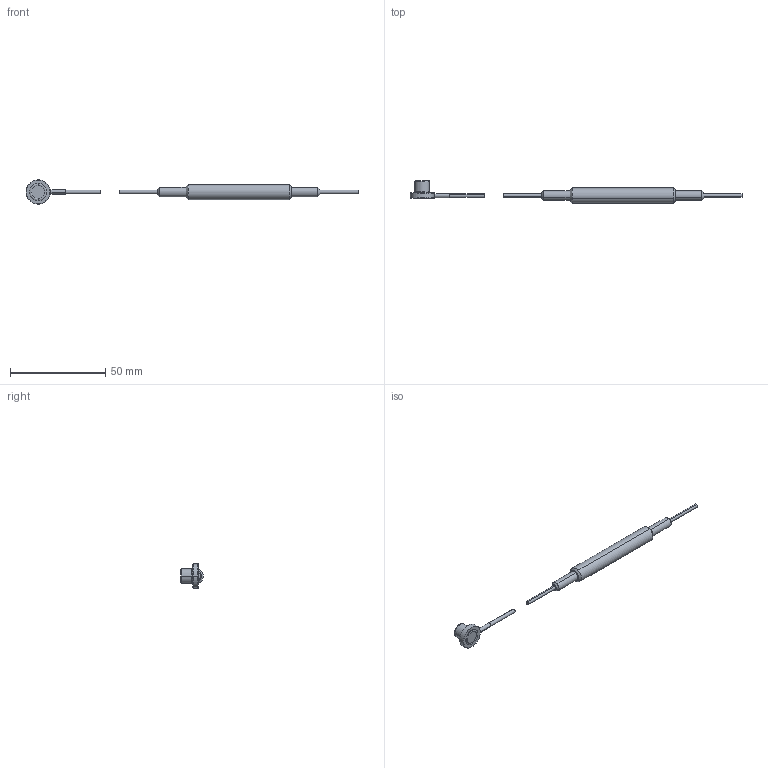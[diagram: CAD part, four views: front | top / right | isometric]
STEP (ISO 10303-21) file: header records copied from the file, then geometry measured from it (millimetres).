
FILE_DESCRIPTION(('STEP AP203'),'1');
FILE_NAME('C:/TPO v2/SharedFS/Outgoing/burster_8402-6005_4hl1t8l0hq8ajw0o7i9wffcyz.stp','2013-08-27T15:24:12',('TraceParts'),('TraceParts S.A.'),'XStep 1.0',' ',' ');
FILE_SCHEMA(('CONFIG_CONTROL_DESIGN'));
Length unit declared in the file: millimetre
Products named in the file (2): 1; 2
Bounding box: 173.85 x 11.78 x 12.7 mm (x, y, z)
Volume: 4177.2 mm3; surface area: 2809.3 mm2
Topology: 2 solids, 2 shells, 56 faces, 130 edges, 85 vertices
Faces by surface type: cylinder 20, torus 14, plane 11, cone 10, sphere 1
Entity records: 1817 total; most frequent: CARTESIAN_POINT 365, DIRECTION 335, ORIENTED_EDGE 260, AXIS2_PLACEMENT_3D 153, EDGE_CURVE 130, CIRCLE 95, VERTEX_POINT 85, EDGE_LOOP 63
